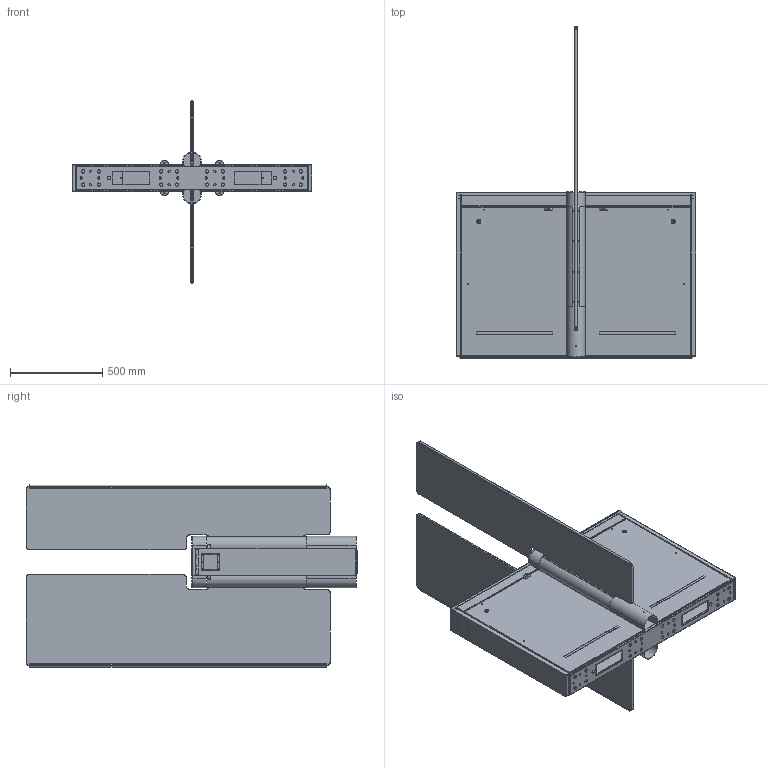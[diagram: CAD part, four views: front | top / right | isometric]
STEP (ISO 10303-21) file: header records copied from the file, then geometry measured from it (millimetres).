
FILE_DESCRIPTION (( 'STEP AP214' ), '1' );
FILE_NAME ('スターン_センター【標準ワイド】.STEP', '2023-02-27T02:38:11', ( 'cadcl' ), ( 'Hewlett-Packard Company' ), 'SwSTEP 2.0', 'SolidWorks 2022', '' );
FILE_SCHEMA (( 'AUTOMOTIVE_DESIGN' ));
Length unit declared in the file: millimetre
Products named in the file (41): 301-06197-18_施錠; 201-06327-49; R33-00022-00_干渉回避用; 201-06290-15_面発光あり; 201-06327-48; 201-06290-16; 201-06206-03_ガラス（ｔ１２）取付時; 201-06327-13; Z01-00712-00; 201-06327-86; スターン_センター【標準ワイド】; 201-06327-59; 201-06327-22; 201-06327-51; 201-06327-79; 201-06290-02; 201-06329-11; R33-00101-00_干渉回避用; 201-06505-08_閉扉; 201-06327-46; T05-00009-00; 201-06329-10; 201-06505-48; 201-06327-21; 201-06327-72_施錠; 201-06327-66; 201-06327-54; 201-06327-78_施錠; 301-06197-17_施錠; 201-06327-00; 201-06327-73_展開用; 201-06327-55; 201-06327-62; 201-05997-02; 201-06327-81; 201-06329-01; 201-06327-61; 201-06329-09; 201-06329-00; Z01-00419-00
Assembly tree (70 placements, depth 4):
  R33-00022-00_干渉回避用
  スターン_センター【標準ワイド】
    201-06505-08_閉扉
      201-06327-13
        201-06327-00
      201-06327-48  x2
        201-06327-46
        201-06329-09
      201-06327-51  x2
        201-06327-49
        201-06329-09
      201-06327-72_施錠  x2
        201-06327-66
        201-06329-11
        201-06329-10
        301-06197-17_施錠
        T05-00009-00
        Z01-00419-00
      201-06327-78_施錠  x2
        201-06329-11
        201-06329-10
        301-06197-18_施錠
        Z01-00419-00
        T05-00009-00
      201-06327-81
        201-06327-79
      201-06327-21  x2
      201-06327-22  x2
      201-06327-54  x2
      201-06327-55  x2
      Z01-00712-00  x8
    201-06327-59  x2
      201-06290-02
    201-06327-61  x2
      201-05997-02
    201-06327-62  x2
    201-06329-00
    201-06329-01
    201-06206-03_ガラス（ｔ１２）取付時  x2
    Z01-00712-00  x8
    201-06327-86  x2
      201-06290-16
        201-06290-15_面発光あり
    201-06327-73_展開用  x2
  R33-00101-00_干渉回避用
  201-06505-48
Bounding box: 1300 x 1799.75 x 987.72 mm (x, y, z)
Volume: 22362019.2 mm3; surface area: 10242020.9 mm2
Topology: 70 solids, 70 shells, 3291 faces, 8334 edges, 5245 vertices
Faces by surface type: plane 1832, cylinder 1119, cone 218, bspline 98, sphere 24
Entity records: 59033 total; most frequent: CARTESIAN_POINT 12201, ORIENTED_EDGE 9326, DIRECTION 9263, EDGE_CURVE 4663, VECTOR 3221, LINE 3221, AXIS2_PLACEMENT_3D 3021, VERTEX_POINT 2931
